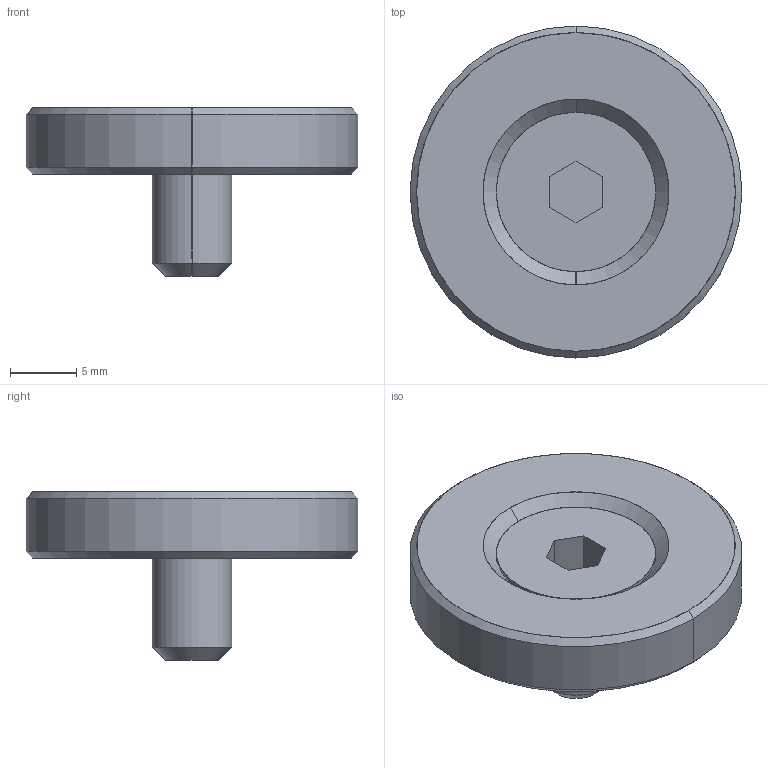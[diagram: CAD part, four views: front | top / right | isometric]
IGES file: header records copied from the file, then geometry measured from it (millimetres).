
Start section: SolidWorks IGES file using analytic representation for surfaces
Global section: file name: X:\11_SW2020-Inv2020\00_全2021-11新製品まで\b\BJ763-06001\bj763-06001.IGS; native system: SolidWorks 2020; preprocessor: SolidWorks 2020; author: ImaoCorp; date: 211025.091821; units: millimetre
Bounding box: 25 x 25 x 12.7 mm (x, y, z)
Surface area: 1572.7 mm2 (no closed solid volume)
Topology: 0 solids, 0 shells, 31 faces, 308 edges, 308 vertices
Faces by surface type: revolution 20, bspline 11
